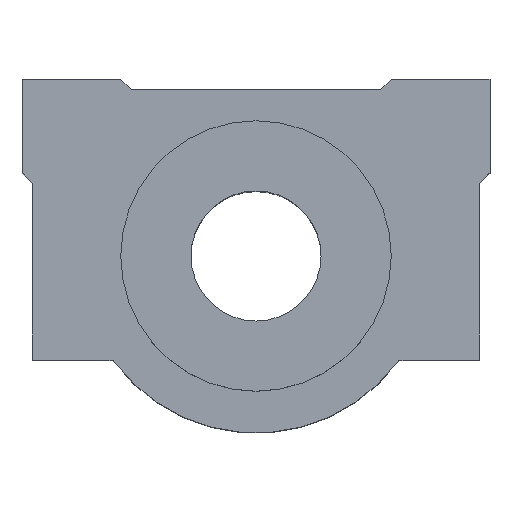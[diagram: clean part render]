
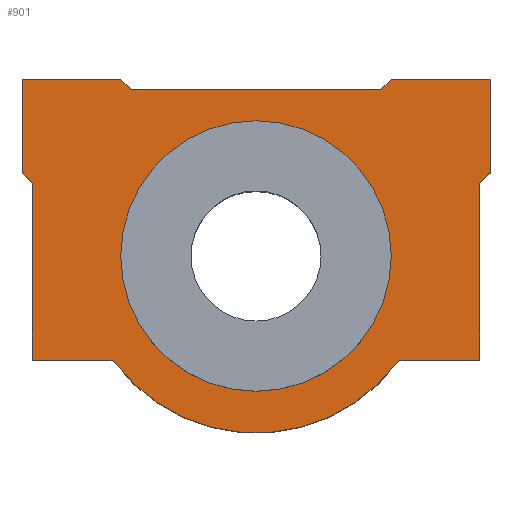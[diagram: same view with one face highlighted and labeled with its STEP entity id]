
A CAD part, top view. The second image highlights one B-rep face of the part: STEP entity #901.
In plain terms, the highlighted planar face has unit normal (0, 0, 1).
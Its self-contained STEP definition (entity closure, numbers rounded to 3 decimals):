
#133=CARTESIAN_POINT('',(-26.709,4.198,57.7));
#134=VERTEX_POINT('',#133);
#143=CARTESIAN_POINT('',(25.291,4.198,57.7));
#144=VERTEX_POINT('',#143);
#145=CARTESIAN_POINT('',(-0.709,4.198,57.7));
#146=DIRECTION('',(0.0,0.0,1.0));
#147=DIRECTION('',(-1.0,0.0,0.0));
#148=AXIS2_PLACEMENT_3D('',#145,#146,#147);
#149=CIRCLE('',#148,26.0);
#150=EDGE_CURVE('',#134,#144,#149,.T.);
#522=CARTESIAN_POINT('',(44.291,20.198,57.7));
#523=VERTEX_POINT('',#522);
#524=CARTESIAN_POINT('',(42.291,18.198,57.7));
#525=VERTEX_POINT('',#524);
#526=CARTESIAN_POINT('',(44.291,20.198,57.7));
#527=DIRECTION('',(-0.707,-0.707,0.0));
#528=VECTOR('',#527,2.828);
#529=LINE('',#526,#528);
#530=EDGE_CURVE('',#523,#525,#529,.T.);
#553=CARTESIAN_POINT('',(42.291,-15.802,57.7));
#554=VERTEX_POINT('',#553);
#555=CARTESIAN_POINT('',(42.291,18.198,57.7));
#556=DIRECTION('',(0.0,-1.0,0.0));
#557=VECTOR('',#556,34.);
#558=LINE('',#555,#557);
#559=EDGE_CURVE('',#525,#554,#558,.T.);
#577=CARTESIAN_POINT('',(26.787,-15.802,57.7));
#578=VERTEX_POINT('',#577);
#579=CARTESIAN_POINT('',(42.291,-15.802,57.7));
#580=DIRECTION('',(-1.0,0.0,0.0));
#581=VECTOR('',#580,15.505);
#582=LINE('',#579,#581);
#583=EDGE_CURVE('',#554,#578,#582,.T.);
#605=CARTESIAN_POINT('',(-28.204,-15.802,57.7));
#606=VERTEX_POINT('',#605);
#607=CARTESIAN_POINT('',(-0.709,4.198,57.7));
#608=DIRECTION('',(0.0,0.0,-1.));
#609=DIRECTION('',(0.809,0.588,0.0));
#610=AXIS2_PLACEMENT_3D('',#607,#608,#609);
#611=CIRCLE('',#610,34.0);
#612=EDGE_CURVE('',#578,#606,#611,.T.);
#630=CARTESIAN_POINT('',(-43.709,-15.802,57.7));
#631=VERTEX_POINT('',#630);
#632=CARTESIAN_POINT('',(-28.204,-15.802,57.7));
#633=DIRECTION('',(-1.0,0.0,0.0));
#634=VECTOR('',#633,15.505);
#635=LINE('',#632,#634);
#636=EDGE_CURVE('',#606,#631,#635,.T.);
#658=CARTESIAN_POINT('',(-43.709,18.198,57.7));
#659=VERTEX_POINT('',#658);
#660=CARTESIAN_POINT('',(-43.709,-15.802,57.7));
#661=DIRECTION('',(0.0,1.0,0.0));
#662=VECTOR('',#661,34.);
#663=LINE('',#660,#662);
#664=EDGE_CURVE('',#631,#659,#663,.T.);
#682=CARTESIAN_POINT('',(-45.709,20.198,57.7));
#683=VERTEX_POINT('',#682);
#684=CARTESIAN_POINT('',(-43.709,18.198,57.7));
#685=DIRECTION('',(-0.707,0.707,0.0));
#686=VECTOR('',#685,2.828);
#687=LINE('',#684,#686);
#688=EDGE_CURVE('',#659,#683,#687,.T.);
#706=CARTESIAN_POINT('',(-45.709,38.198,57.7));
#707=VERTEX_POINT('',#706);
#708=CARTESIAN_POINT('',(-45.709,20.198,57.7));
#709=DIRECTION('',(0.0,1.0,0.0));
#710=VECTOR('',#709,18.0);
#711=LINE('',#708,#710);
#712=EDGE_CURVE('',#683,#707,#711,.T.);
#730=CARTESIAN_POINT('',(-26.709,38.198,57.7));
#731=VERTEX_POINT('',#730);
#732=CARTESIAN_POINT('',(-45.709,38.198,57.7));
#733=DIRECTION('',(1.0,0.0,0.0));
#734=VECTOR('',#733,19.);
#735=LINE('',#732,#734);
#736=EDGE_CURVE('',#707,#731,#735,.T.);
#758=CARTESIAN_POINT('',(-24.709,36.198,57.7));
#759=VERTEX_POINT('',#758);
#760=CARTESIAN_POINT('',(-26.709,38.198,57.7));
#761=DIRECTION('',(0.707,-0.707,0.0));
#762=VECTOR('',#761,2.828);
#763=LINE('',#760,#762);
#764=EDGE_CURVE('',#731,#759,#763,.T.);
#782=CARTESIAN_POINT('',(23.291,36.198,57.7));
#783=VERTEX_POINT('',#782);
#784=CARTESIAN_POINT('',(-24.709,36.198,57.7));
#785=DIRECTION('',(1.0,0.0,0.0));
#786=VECTOR('',#785,48.);
#787=LINE('',#784,#786);
#788=EDGE_CURVE('',#759,#783,#787,.T.);
#806=CARTESIAN_POINT('',(25.291,38.198,57.7));
#807=VERTEX_POINT('',#806);
#808=CARTESIAN_POINT('',(23.291,36.198,57.7));
#809=DIRECTION('',(0.707,0.707,0.0));
#810=VECTOR('',#809,2.828);
#811=LINE('',#808,#810);
#812=EDGE_CURVE('',#783,#807,#811,.T.);
#830=CARTESIAN_POINT('',(44.291,38.198,57.7));
#831=VERTEX_POINT('',#830);
#832=CARTESIAN_POINT('',(25.291,38.198,57.7));
#833=DIRECTION('',(1.0,0.0,0.0));
#834=VECTOR('',#833,19.);
#835=LINE('',#832,#834);
#836=EDGE_CURVE('',#807,#831,#835,.T.);
#858=CARTESIAN_POINT('',(44.291,38.198,57.7));
#859=DIRECTION('',(0.0,-1.0,0.0));
#860=VECTOR('',#859,18.);
#861=LINE('',#858,#860);
#862=EDGE_CURVE('',#831,#523,#861,.T.);
#870=CARTESIAN_POINT('',(-0.709,8.801,57.7));
#871=DIRECTION('',(0.0,0.0,1.0));
#872=DIRECTION('',(1.0,0.0,0.0));
#873=AXIS2_PLACEMENT_3D('',#870,#871,#872);
#874=PLANE('',#873);
#875=ORIENTED_EDGE('',*,*,#530,.F.);
#876=ORIENTED_EDGE('',*,*,#862,.F.);
#877=ORIENTED_EDGE('',*,*,#836,.F.);
#878=ORIENTED_EDGE('',*,*,#812,.F.);
#879=ORIENTED_EDGE('',*,*,#788,.F.);
#880=ORIENTED_EDGE('',*,*,#764,.F.);
#881=ORIENTED_EDGE('',*,*,#736,.F.);
#882=ORIENTED_EDGE('',*,*,#712,.F.);
#883=ORIENTED_EDGE('',*,*,#688,.F.);
#884=ORIENTED_EDGE('',*,*,#664,.F.);
#885=ORIENTED_EDGE('',*,*,#636,.F.);
#886=ORIENTED_EDGE('',*,*,#612,.F.);
#887=ORIENTED_EDGE('',*,*,#583,.F.);
#888=ORIENTED_EDGE('',*,*,#559,.F.);
#889=EDGE_LOOP('',(#875,#876,#877,#878,#879,#880,#881,#882,#883,#884,#885,#886,#887,#888));
#890=FACE_OUTER_BOUND('',#889,.T.);
#891=CARTESIAN_POINT('',(-0.709,4.198,57.7));
#892=DIRECTION('',(0.0,0.0,1.0));
#893=DIRECTION('',(-1.0,0.0,0.0));
#894=AXIS2_PLACEMENT_3D('',#891,#892,#893);
#895=CIRCLE('',#894,26.0);
#896=EDGE_CURVE('',#144,#134,#895,.T.);
#897=ORIENTED_EDGE('',*,*,#896,.F.);
#898=ORIENTED_EDGE('',*,*,#150,.F.);
#899=EDGE_LOOP('',(#897,#898));
#900=FACE_BOUND('',#899,.T.);
#901=ADVANCED_FACE('',(#890,#900),#874,.T.);
